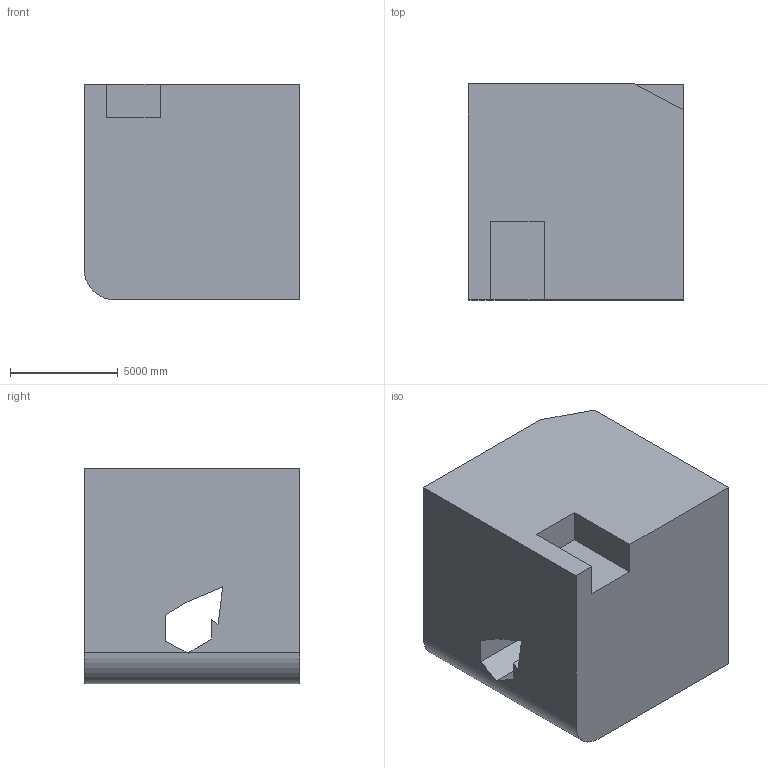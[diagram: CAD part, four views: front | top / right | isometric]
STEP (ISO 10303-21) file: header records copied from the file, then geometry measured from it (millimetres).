
FILE_DESCRIPTION (( 'STEP AP203' ), '1' );
FILE_NAME ('582.STEP', '2022-07-29T11:56:03', ( 'user' ), ( '' ), 'SwSTEP 2.0', 'SolidWorks 2021', '' );
FILE_SCHEMA (( 'CONFIG_CONTROL_DESIGN' ));
Length unit declared in the file: centimetre
Products named in the file (1): 582
Bounding box: 10000 x 10000 x 10000 mm (x, y, z)
Volume: 907935280071.3 mm3; surface area: 721074418.9 mm2
Topology: 1 solids, 1 shells, 27 faces, 72 edges, 48 vertices
Faces by surface type: plane 22, cylinder 5
Entity records: 917 total; most frequent: CARTESIAN_POINT 154, ORIENTED_EDGE 144, DIRECTION 136, EDGE_CURVE 72, LINE 60, VECTOR 60, VERTEX_POINT 48, AXIS2_PLACEMENT_3D 38
